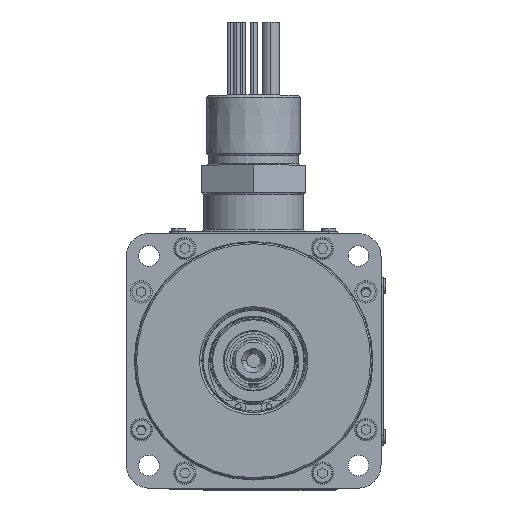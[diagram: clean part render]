
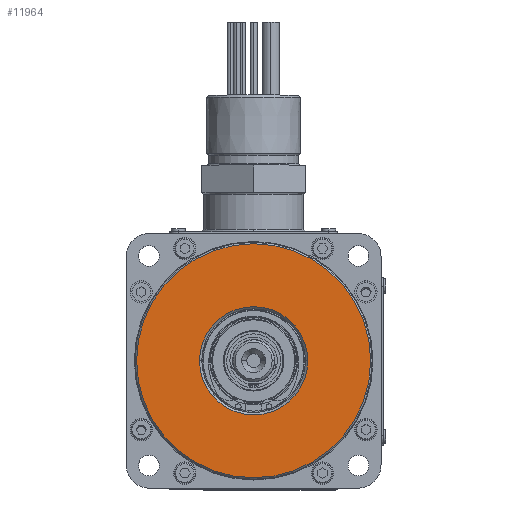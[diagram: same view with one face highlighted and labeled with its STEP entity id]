
A CAD part, top view. The second image highlights one B-rep face of the part: STEP entity #11964.
In plain terms, the highlighted planar face has unit normal (0, 0, 1).
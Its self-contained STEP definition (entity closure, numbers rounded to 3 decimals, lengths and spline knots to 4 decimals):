
#11213 = ORIENTED_EDGE ( 'NONE', *, *, #12074, .T. ) ;
#11830 = VERTEX_POINT ( 'NONE', #24692 ) ;
#11831 = VERTEX_POINT ( 'NONE', #24638 ) ;
#11832 = VERTEX_POINT ( 'NONE', #24569 ) ;
#11850 = EDGE_CURVE ( 'NONE', #11831, #11832, #24722, .T. ) ;
#11923 = ORIENTED_EDGE ( 'NONE', *, *, #11963, .T. ) ;
#11952 = EDGE_CURVE ( 'NONE', #11832, #11831, #25507, .T. ) ;
#11953 = ORIENTED_EDGE ( 'NONE', *, *, #11850, .T. ) ;
#11954 = EDGE_LOOP ( 'NONE', ( #11213, #11923 ) ) ;
#11963 = EDGE_CURVE ( 'NONE', #11830, #12075, #25738, .T. ) ;
#11964 = ADVANCED_FACE ( 'NONE', ( #25740, #25731 ), #25730, .T. ) ;
#11965 = EDGE_LOOP ( 'NONE', ( #11966, #11953 ) ) ;
#11966 = ORIENTED_EDGE ( 'NONE', *, *, #11952, .T. ) ;
#12074 = EDGE_CURVE ( 'NONE', #12075, #11830, #25787, .T. ) ;
#12075 = VERTEX_POINT ( 'NONE', #25780 ) ;
#24569 = CARTESIAN_POINT ( 'NONE',  ( -1.5548, 0., -1.063 ) ) ;
#24638 = CARTESIAN_POINT ( 'NONE',  ( 1.5548, 0., -1.063 ) ) ;
#24692 = CARTESIAN_POINT ( 'NONE',  ( -0.7189, 0., -1.063 ) ) ;
#24722 = CIRCLE ( 'NONE', #24758, 1.5548 ) ;
#24723 = CARTESIAN_POINT ( 'NONE',  ( 0., 0., -1.063 ) ) ;
#24724 = DIRECTION ( 'NONE',  ( 1., 0., 0. ) ) ;
#24743 = DIRECTION ( 'NONE',  ( 0., 0., 1. ) ) ;
#24758 = AXIS2_PLACEMENT_3D ( 'NONE', #24723, #24743, #24724 ) ;
#25501 = DIRECTION ( 'NONE',  ( 1., 0., 0. ) ) ;
#25502 = DIRECTION ( 'NONE',  ( 0., 0., 1. ) ) ;
#25504 = CARTESIAN_POINT ( 'NONE',  ( 0., 0., -1.063 ) ) ;
#25506 = AXIS2_PLACEMENT_3D ( 'NONE', #25504, #25502, #25501 ) ;
#25507 = CIRCLE ( 'NONE', #25506, 1.5548 ) ;
#25721 = DIRECTION ( 'NONE',  ( 1., 0., 0. ) ) ;
#25723 = DIRECTION ( 'NONE',  ( 0., 0., 1. ) ) ;
#25724 = CARTESIAN_POINT ( 'NONE',  ( 0., 1.5748, -1.063 ) ) ;
#25726 = AXIS2_PLACEMENT_3D ( 'NONE', #25724, #25723, #25721 ) ;
#25730 = PLANE ( 'NONE',  #25726 ) ;
#25731 = FACE_BOUND ( 'NONE', #11954, .T. ) ;
#25733 = DIRECTION ( 'NONE',  ( 1., 0., 0. ) ) ;
#25735 = DIRECTION ( 'NONE',  ( 0., 0., -1. ) ) ;
#25736 = CARTESIAN_POINT ( 'NONE',  ( 0., 0., -1.063 ) ) ;
#25737 = AXIS2_PLACEMENT_3D ( 'NONE', #25736, #25735, #25733 ) ;
#25738 = CIRCLE ( 'NONE', #25737, 0.7189 ) ;
#25740 = FACE_OUTER_BOUND ( 'NONE', #11965, .T. ) ;
#25780 = CARTESIAN_POINT ( 'NONE',  ( 0.7189, 0., -1.063 ) ) ;
#25781 = DIRECTION ( 'NONE',  ( 1., 0., 0. ) ) ;
#25782 = DIRECTION ( 'NONE',  ( 0., 0., -1. ) ) ;
#25785 = CARTESIAN_POINT ( 'NONE',  ( 0., 0., -1.063 ) ) ;
#25786 = AXIS2_PLACEMENT_3D ( 'NONE', #25785, #25782, #25781 ) ;
#25787 = CIRCLE ( 'NONE', #25786, 0.7189 ) ;
